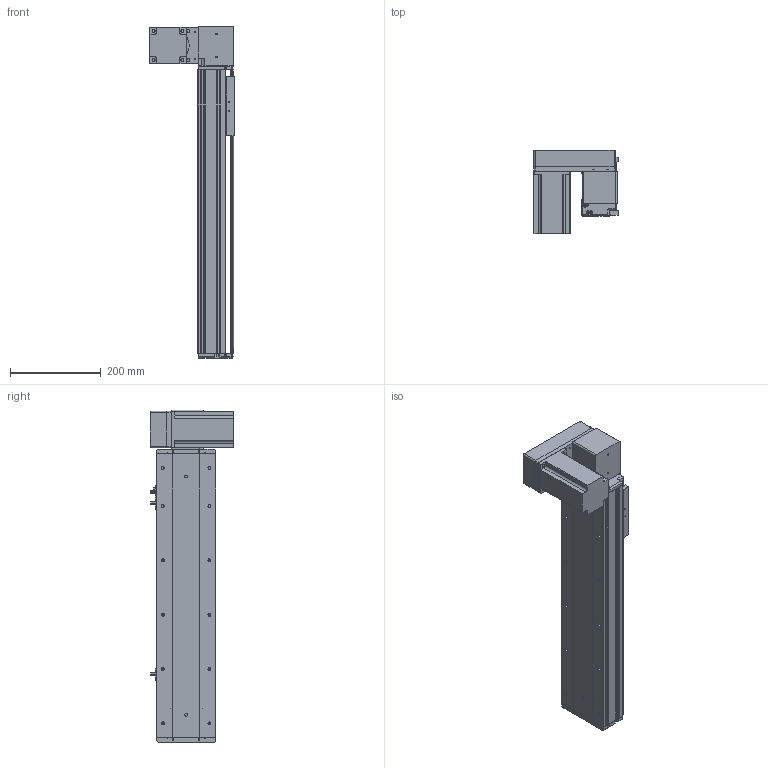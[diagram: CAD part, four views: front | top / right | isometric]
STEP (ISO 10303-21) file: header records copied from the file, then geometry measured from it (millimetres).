
FILE_DESCRIPTION (( 'STEP AP214' ), '1' );
FILE_NAME ('KSD130B-S400-MRD-CM .STEP', '2019-09-21T09:38:25', ( '微软用户' ), ( '微软中国' ), 'SwSTEP 2.0', 'SolidWorks 2014', '' );
FILE_SCHEMA (( 'AUTOMOTIVE_DESIGN' ));
Length unit declared in the file: millimetre
Products named in the file (12): 130宽底板半封闭同步带-400行程; KSD130B-S400-MRD-CM ; 130宽模组保护罩上下左右折-同步带; 台达ECMA－C20807AS伺服电机; 130宽模组马达安装板连板上下折丝杆同步带; 覜茼え100遵圉猾敕; U倰嫖萇EEㄜSX672; 130宽盖板半封闭同步带-400行程; 130宽马达安装板同步带右-改镜向_默认<按加工>; 130宽马达安装板同步带半封闭; 130宽同步带安装座半封闭; 130宽端盖同步带半封闭
Assembly tree (13 placements, depth 2):
  KSD130B-S400-MRD-CM 
    130宽底板半封闭同步带-400行程
    130宽端盖同步带半封闭
    130宽同步带安装座半封闭
    130宽马达安装板同步带半封闭
    130宽马达安装板同步带右-改镜向_默认<按加工>
    130宽盖板半封闭同步带-400行程
    U倰嫖萇EEㄜSX672  x3
    覜茼え100遵圉猾敕
    130宽模组马达安装板连板上下折丝杆同步带
    台达ECMA－C20807AS伺服电机
    130宽模组保护罩上下左右折-同步带
Bounding box: 186 x 184.8 x 733 mm (x, y, z)
Volume: 3346931.4 mm3; surface area: 859848.5 mm2
Topology: 14 solids, 14 shells, 1389 faces, 3905 edges, 2511 vertices
Faces by surface type: cylinder 648, plane 606, cone 135
Entity records: 44275 total; most frequent: CARTESIAN_POINT 7896, DIRECTION 6807, ORIENTED_EDGE 6526, EDGE_CURVE 3263, AXIS2_PLACEMENT_3D 2462, VERTEX_POINT 2135, LINE 1883, VECTOR 1883
